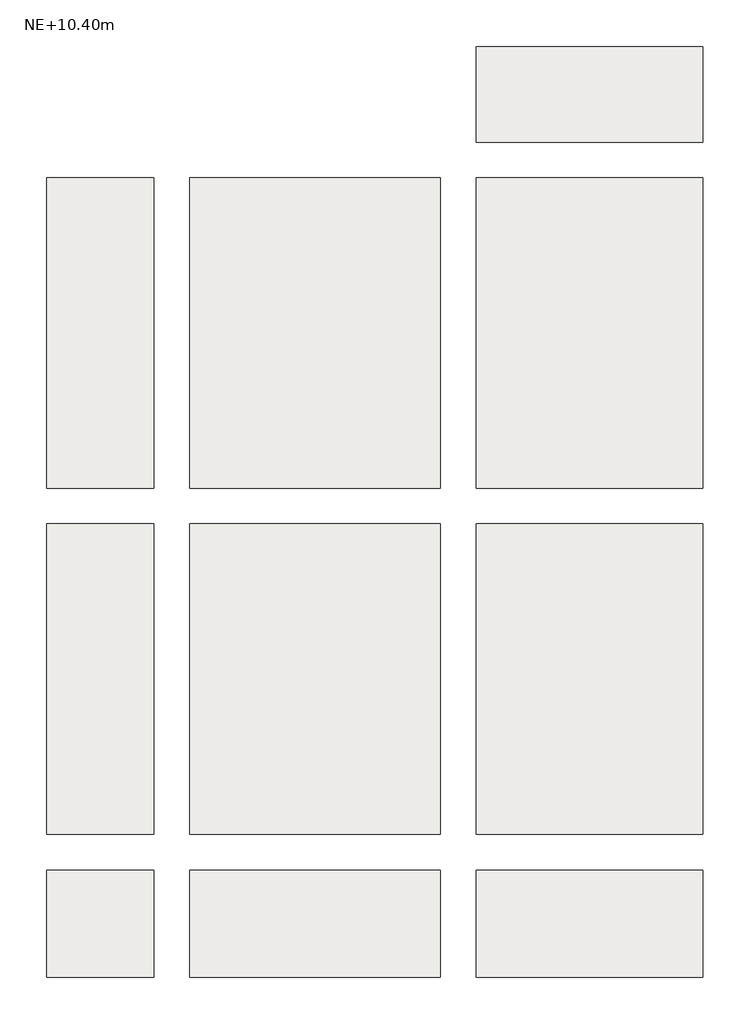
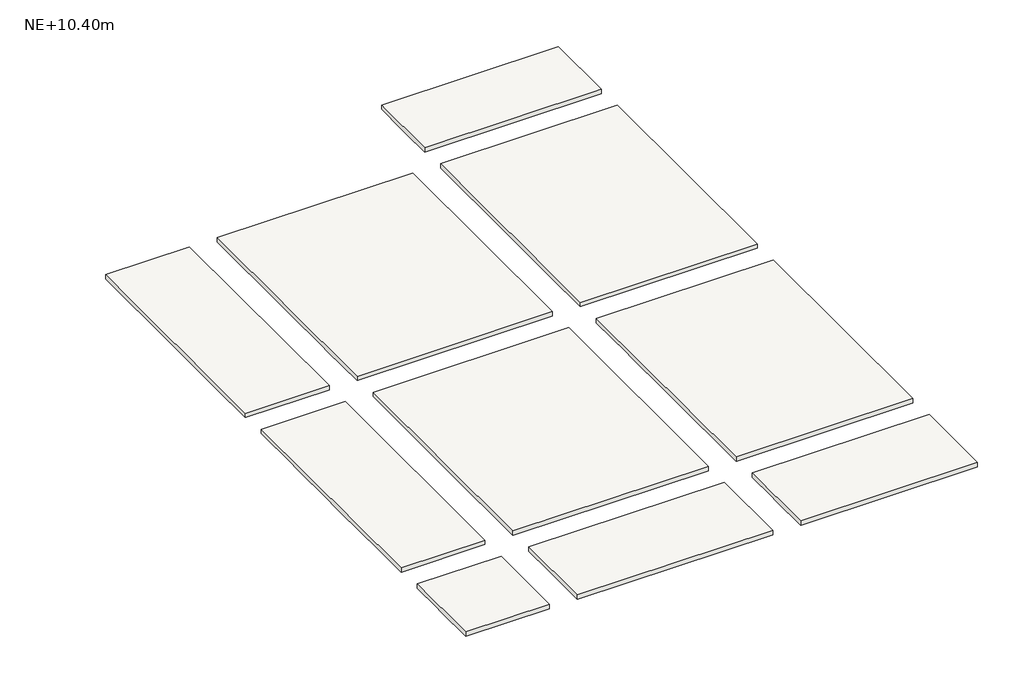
# One storey: 1 slab.
"""IFC4 building model written with IfcOpenShell, lengths in millimetres."""

from ifc_helpers import new_model, si_unit, origin, place, context, project, spatial, faceted_brep, element, save

model = new_model("IFC4")

# Units and contexts
model_context = context("Model", 3, world=origin())
ifc_project = project(units=[si_unit("LENGTHUNIT", "METRE", prefix="MILLI")], contexts=[model_context])

# Site, building, storey
site = spatial("IfcSite", under=ifc_project)
building = spatial("IfcBuilding", under=site)
storey = spatial("IfcBuildingStorey", under=building, Name="NE+10.40m", Elevation=10400.0)

# Slab
placement = place(None, origin())
element("IfcSlab", 1, ObjectType="Torta superior e=5cm", at=placement, inside=storey, context=model_context, shape_type="Brep", body=[
    faceted_brep([(3552.3188918, -1337.1867862, 10350.0), (3552.3188918, -1887.1867862, 10350.0), (3552.3188918, -1987.1867862, 10350.0), (3552.3188918, -2587.1867862, 10350.0), (3552.3188918, -2687.1867862, 10350.0), (3552.3188918, -3287.1867862, 10350.0), (3552.3188918, -3387.1867862, 10350.0), (3552.3188918, -3937.1867862, 10350.0), (1652.3188918, -3937.1867862, 10350.0), (1652.3188918, -3387.1867862, 10350.0), (1652.3188918, -3287.1867862, 10350.0), (1652.3188918, -2687.1867862, 10350.0), (1652.3188918, -2587.1867862, 10350.0), (1652.3188918, -1987.1867862, 10350.0), (1652.3188918, -1887.1867862, 10350.0), (1652.3188918, -1337.1867862, 10350.0), (3552.3188918, -1337.1867862, 10400.0), (1652.3188918, -1337.1867862, 10400.0), (1652.3188918, -3937.1867862, 10400.0), (3552.3188918, -3937.1867862, 10400.0)], [[[0, 1, 2, 3, 4, 5, 6, 7, 8, 9, 10, 11, 12, 13, 14, 15]], [[16, 17, 18, 19]], [[7, 6, 5, 4, 3, 2, 1, 0, 16, 19]], [[8, 7, 19, 18]], [[15, 14, 13, 12, 11, 10, 9, 8, 18, 17]], [[0, 15, 17, 16]]]),
    faceted_brep([(1352.3188918, -1337.1867862, 10350.0), (1352.3188918, -1887.1867862, 10350.0), (1352.3188918, -1987.1867862, 10350.0), (1352.3188918, -2587.1867862, 10350.0), (1352.3188918, -2687.1867862, 10350.0), (1352.3188918, -3287.1867862, 10350.0), (1352.3188918, -3387.1867862, 10350.0), (1352.3188918, -3937.1867862, 10350.0), (-747.6811082, -3937.1867862, 10350.0), (-747.6811082, -3387.1867862, 10350.0), (-747.6811082, -3287.1867862, 10350.0), (-747.6811082, -2687.1867862, 10350.0), (-747.6811082, -2587.1867862, 10350.0), (-747.6811082, -1987.1867862, 10350.0), (-747.6811082, -1887.1867862, 10350.0), (-747.6811082, -1337.1867862, 10350.0), (1352.3188918, -1337.1867862, 10400.0), (-747.6811082, -1337.1867862, 10400.0), (-747.6811082, -3937.1867862, 10400.0), (1352.3188918, -3937.1867862, 10400.0)], [[[0, 1, 2, 3, 4, 5, 6, 7, 8, 9, 10, 11, 12, 13, 14, 15]], [[16, 17, 18, 19]], [[7, 6, 5, 4, 3, 2, 1, 0, 16, 19]], [[8, 7, 19, 18]], [[15, 14, 13, 12, 11, 10, 9, 8, 18, 17]], [[0, 15, 17, 16]]]),
    faceted_brep([(-1047.6811082, -1337.1867862, 10350.0), (-1047.6811082, -1887.1867862, 10350.0), (-1047.6811082, -1987.1867862, 10350.0), (-1047.6811082, -2587.1867862, 10350.0), (-1047.6811082, -2687.1867862, 10350.0), (-1047.6811082, -3287.1867862, 10350.0), (-1047.6811082, -3387.1867862, 10350.0), (-1047.6811082, -3937.1867862, 10350.0), (-1947.6811082, -3937.1867862, 10350.0), (-1947.6811082, -3387.1867862, 10350.0), (-1947.6811082, -3287.1867862, 10350.0), (-1947.6811082, -2687.1867862, 10350.0), (-1947.6811082, -2587.1867862, 10350.0), (-1947.6811082, -1987.1867862, 10350.0), (-1947.6811082, -1887.1867862, 10350.0), (-1947.6811082, -1337.1867862, 10350.0), (-1047.6811082, -1337.1867862, 10400.0), (-1947.6811082, -1337.1867862, 10400.0), (-1947.6811082, -3937.1867862, 10400.0), (-1047.6811082, -3937.1867862, 10400.0)], [[[0, 1, 2, 3, 4, 5, 6, 7, 8, 9, 10, 11, 12, 13, 14, 15]], [[16, 17, 18, 19]], [[7, 6, 5, 4, 3, 2, 1, 0, 16, 19]], [[8, 7, 19, 18]], [[15, 14, 13, 12, 11, 10, 9, 8, 18, 17]], [[0, 15, 17, 16]]]),
    faceted_brep([(-1047.6811082, -4237.1867862, 10350.0), (-1047.6811082, -4787.1867862, 10350.0), (-1047.6811082, -4887.1867862, 10350.0), (-1047.6811082, -5487.1867862, 10350.0), (-1047.6811082, -5587.1867862, 10350.0), (-1047.6811082, -6187.1867862, 10350.0), (-1047.6811082, -6287.1867862, 10350.0), (-1047.6811082, -6837.1867862, 10350.0), (-1947.6811082, -6837.1867862, 10350.0), (-1947.6811082, -6287.1867862, 10350.0), (-1947.6811082, -6187.1867862, 10350.0), (-1947.6811082, -5587.1867862, 10350.0), (-1947.6811082, -5487.1867862, 10350.0), (-1947.6811082, -4887.1867862, 10350.0), (-1947.6811082, -4787.1867862, 10350.0), (-1947.6811082, -4237.1867862, 10350.0), (-1047.6811082, -4237.1867862, 10400.0), (-1947.6811082, -4237.1867862, 10400.0), (-1947.6811082, -6837.1867862, 10400.0), (-1047.6811082, -6837.1867862, 10400.0)], [[[0, 1, 2, 3, 4, 5, 6, 7, 8, 9, 10, 11, 12, 13, 14, 15]], [[16, 17, 18, 19]], [[7, 6, 5, 4, 3, 2, 1, 0, 16, 19]], [[8, 7, 19, 18]], [[15, 14, 13, 12, 11, 10, 9, 8, 18, 17]], [[0, 15, 17, 16]]]),
    faceted_brep([(1352.3188918, -4237.1867862, 10350.0), (1352.3188918, -4787.1867862, 10350.0), (1352.3188918, -4887.1867862, 10350.0), (1352.3188918, -5487.1867862, 10350.0), (1352.3188918, -5587.1867862, 10350.0), (1352.3188918, -6187.1867862, 10350.0), (1352.3188918, -6287.1867862, 10350.0), (1352.3188918, -6837.1867862, 10350.0), (-747.6811082, -6837.1867862, 10350.0), (-747.6811082, -6287.1867862, 10350.0), (-747.6811082, -6187.1867862, 10350.0), (-747.6811082, -5587.1867862, 10350.0), (-747.6811082, -5487.1867862, 10350.0), (-747.6811082, -4887.1867862, 10350.0), (-747.6811082, -4787.1867862, 10350.0), (-747.6811082, -4237.1867862, 10350.0), (1352.3188918, -4237.1867862, 10400.0), (-747.6811082, -4237.1867862, 10400.0), (-747.6811082, -6837.1867862, 10400.0), (1352.3188918, -6837.1867862, 10400.0)], [[[0, 1, 2, 3, 4, 5, 6, 7, 8, 9, 10, 11, 12, 13, 14, 15]], [[16, 17, 18, 19]], [[7, 6, 5, 4, 3, 2, 1, 0, 16, 19]], [[8, 7, 19, 18]], [[15, 14, 13, 12, 11, 10, 9, 8, 18, 17]], [[0, 15, 17, 16]]]),
    faceted_brep([(3552.3188918, -4237.1867862, 10350.0), (3552.3188918, -4787.1867862, 10350.0), (3552.3188918, -4887.1867862, 10350.0), (3552.3188918, -5487.1867862, 10350.0), (3552.3188918, -5587.1867862, 10350.0), (3552.3188918, -6187.1867862, 10350.0), (3552.3188918, -6287.1867862, 10350.0), (3552.3188918, -6837.1867862, 10350.0), (1652.3188918, -6837.1867862, 10350.0), (1652.3188918, -6287.1867862, 10350.0), (1652.3188918, -6187.1867862, 10350.0), (1652.3188918, -5587.1867862, 10350.0), (1652.3188918, -5487.1867862, 10350.0), (1652.3188918, -4887.1867862, 10350.0), (1652.3188918, -4787.1867862, 10350.0), (1652.3188918, -4237.1867862, 10350.0), (3552.3188918, -4237.1867862, 10400.0), (1652.3188918, -4237.1867862, 10400.0), (1652.3188918, -6837.1867862, 10400.0), (3552.3188918, -6837.1867862, 10400.0)], [[[0, 1, 2, 3, 4, 5, 6, 7, 8, 9, 10, 11, 12, 13, 14, 15]], [[16, 17, 18, 19]], [[7, 6, 5, 4, 3, 2, 1, 0, 16, 19]], [[8, 7, 19, 18]], [[15, 14, 13, 12, 11, 10, 9, 8, 18, 17]], [[0, 15, 17, 16]]]),
    faceted_brep([(3552.3188918, -7137.1867862, 10350.0), (3552.3188918, -7487.1867862, 10350.0), (3552.3188918, -7587.1867862, 10350.0), (3552.3188918, -8037.1867862, 10350.0), (1652.3188918, -8037.1867862, 10350.0), (1652.3188918, -7587.1867862, 10350.0), (1652.3188918, -7487.1867862, 10350.0), (1652.3188918, -7137.1867862, 10350.0), (3552.3188918, -7137.1867862, 10400.0), (1652.3188918, -7137.1867862, 10400.0), (1652.3188918, -8037.1867862, 10400.0), (3552.3188918, -8037.1867862, 10400.0)], [[[0, 1, 2, 3, 4, 5, 6, 7]], [[8, 9, 10, 11]], [[3, 2, 1, 0, 8, 11]], [[4, 3, 11, 10]], [[7, 6, 5, 4, 10, 9]], [[0, 7, 9, 8]]]),
    faceted_brep([(3552.3188918, -237.1867862, 10350.0), (3552.3188918, -587.1867862, 10350.0), (3552.3188918, -687.1867862, 10350.0), (3552.3188918, -1037.1867862, 10350.0), (1652.3188918, -1037.1867862, 10350.0), (1652.3188918, -687.1867862, 10350.0), (1652.3188918, -587.1867862, 10350.0), (1652.3188918, -237.1867862, 10350.0), (3552.3188918, -237.1867862, 10400.0), (1652.3188918, -237.1867862, 10400.0), (1652.3188918, -1037.1867862, 10400.0), (3552.3188918, -1037.1867862, 10400.0)], [[[0, 1, 2, 3, 4, 5, 6, 7]], [[8, 9, 10, 11]], [[3, 2, 1, 0, 8, 11]], [[4, 3, 11, 10]], [[7, 6, 5, 4, 10, 9]], [[0, 7, 9, 8]]]),
    faceted_brep([(1352.3188918, -7137.1867862, 10350.0), (1352.3188918, -7487.1867862, 10350.0), (1352.3188918, -7587.1867862, 10350.0), (1352.3188918, -8037.1867862, 10350.0), (-747.6811082, -8037.1867862, 10350.0), (-747.6811082, -7587.1867862, 10350.0), (-747.6811082, -7487.1867862, 10350.0), (-747.6811082, -7137.1867862, 10350.0), (1352.3188918, -7137.1867862, 10400.0), (-747.6811082, -7137.1867862, 10400.0), (-747.6811082, -8037.1867862, 10400.0), (1352.3188918, -8037.1867862, 10400.0)], [[[0, 1, 2, 3, 4, 5, 6, 7]], [[8, 9, 10, 11]], [[3, 2, 1, 0, 8, 11]], [[4, 3, 11, 10]], [[7, 6, 5, 4, 10, 9]], [[0, 7, 9, 8]]]),
    faceted_brep([(-1047.6811082, -7137.1867862, 10350.0), (-1047.6811082, -7487.1867862, 10350.0), (-1047.6811082, -7587.1867862, 10350.0), (-1047.6811082, -8037.1867862, 10350.0), (-1947.6811082, -8037.1867862, 10350.0), (-1947.6811082, -7587.1867862, 10350.0), (-1947.6811082, -7487.1867862, 10350.0), (-1947.6811082, -7137.1867862, 10350.0), (-1047.6811082, -7137.1867862, 10400.0), (-1947.6811082, -7137.1867862, 10400.0), (-1947.6811082, -8037.1867862, 10400.0), (-1047.6811082, -8037.1867862, 10400.0)], [[[0, 1, 2, 3, 4, 5, 6, 7]], [[8, 9, 10, 11]], [[3, 2, 1, 0, 8, 11]], [[4, 3, 11, 10]], [[7, 6, 5, 4, 10, 9]], [[0, 7, 9, 8]]]),
])

save(model, "model.ifc")
